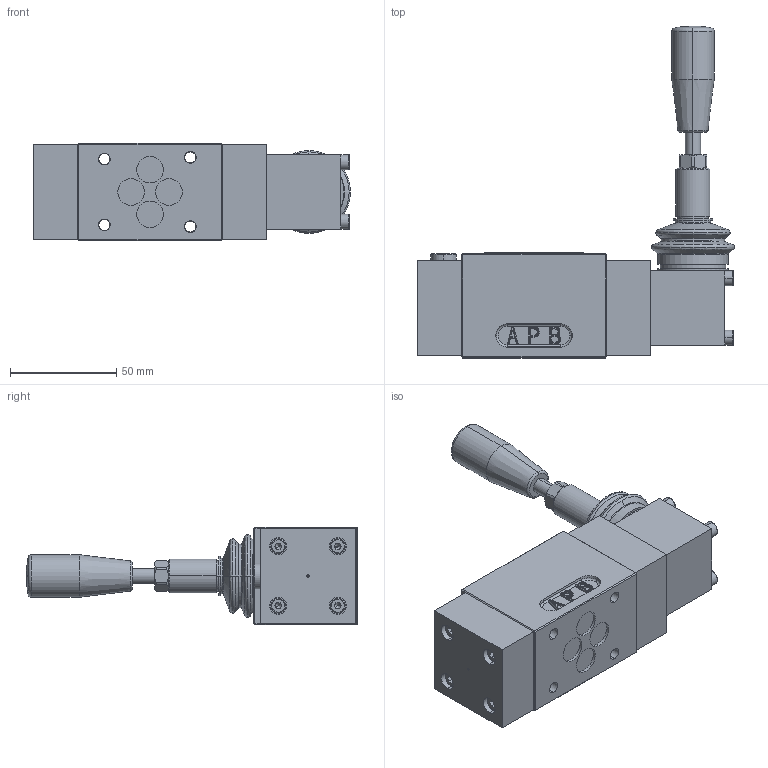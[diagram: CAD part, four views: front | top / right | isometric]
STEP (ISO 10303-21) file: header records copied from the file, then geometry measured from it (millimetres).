
FILE_DESCRIPTION (( 'STEP AP214' ), '1' );
FILE_NAME ('WD.FA06-...2.STEP', '2022-08-17T08:58:19', ( '' ), ( '' ), 'SwSTEP 2.0', 'SolidWorks 2020', '' );
FILE_SCHEMA (( 'AUTOMOTIVE_DESIGN' ));
Length unit declared in the file: millimetre
Products named in the file (1): WD.FA06-...2
Bounding box: 149.1 x 156.2 x 46 mm (x, y, z)
Volume: 312267.5 mm3; surface area: 43861.5 mm2
Topology: 1 solids, 1 shells, 628 faces, 1469 edges, 869 vertices
Faces by surface type: plane 287, cylinder 179, bspline 52, cone 48, torus 42, sphere 20
Entity records: 26175 total; most frequent: CARTESIAN_POINT 5287, DIRECTION 3060, ORIENTED_EDGE 2868, EDGE_CURVE 1434, AXIS2_PLACEMENT_3D 1145, VERTEX_POINT 869, LINE 770, VECTOR 770
